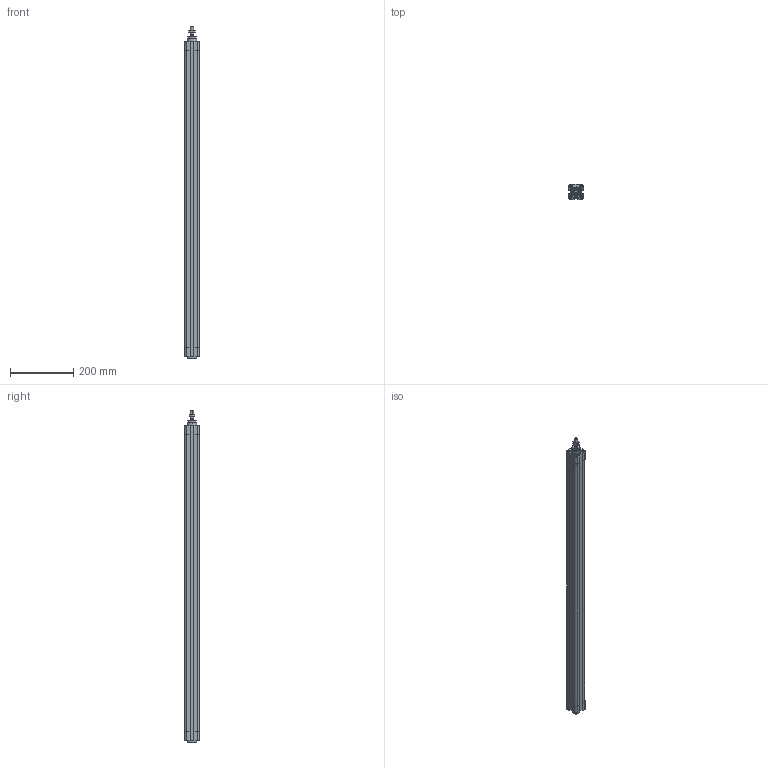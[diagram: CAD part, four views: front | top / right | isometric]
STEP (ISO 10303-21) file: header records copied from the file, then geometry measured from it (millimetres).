
FILE_DESCRIPTION((''),'2;1');
FILE_NAME('F:\Lib-3d\1380\CIL\1380_32_0900_01.stp','2004-01-07T16:02:49',('maffial1'),(''),'Autodesk Inventor 8','Autodesk Inventor 8','');
FILE_SCHEMA(('AUTOMOTIVE_DESIGN { 1 0 10303 214 1 1 1 1 }'));
Length unit declared in the file: millimetre
Products named in the file (4): 1380_32_0900_01; CPP01_32_900; CPP02_32_900; 1320_32_18F
Assembly tree (3 placements, depth 2):
  1380_32_0900_01
    CPP01_32_900
    CPP02_32_900
    1320_32_18F
Bounding box: 46 x 46 x 1046 mm (x, y, z)
Volume: 1862811.1 mm3; surface area: 303188.4 mm2
Topology: 3 solids, 3 shells, 244 faces, 570 edges, 356 vertices
Faces by surface type: plane 83, bspline 67, cylinder 58, cone 34, torus 2
Entity records: 7668 total; most frequent: CARTESIAN_POINT 2166, DIRECTION 1136, ORIENTED_EDGE 1108, EDGE_CURVE 554, AXIS2_PLACEMENT_3D 422, VERTEX_POINT 356, VECTOR 292, LINE 292
